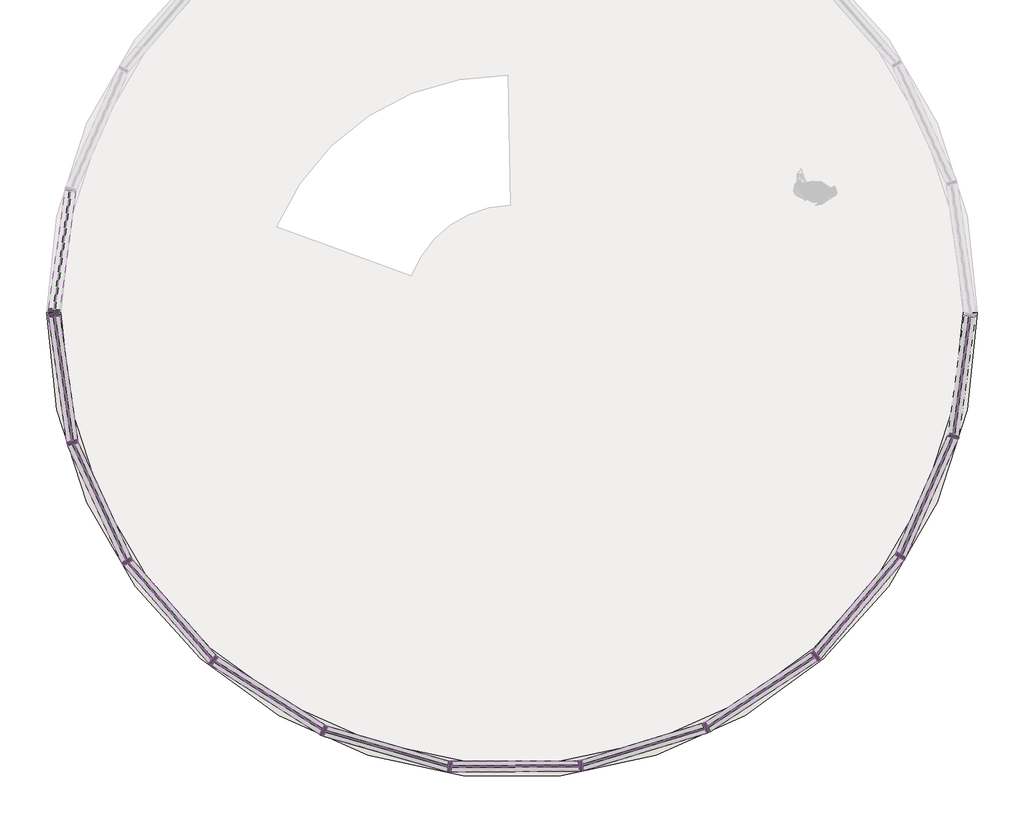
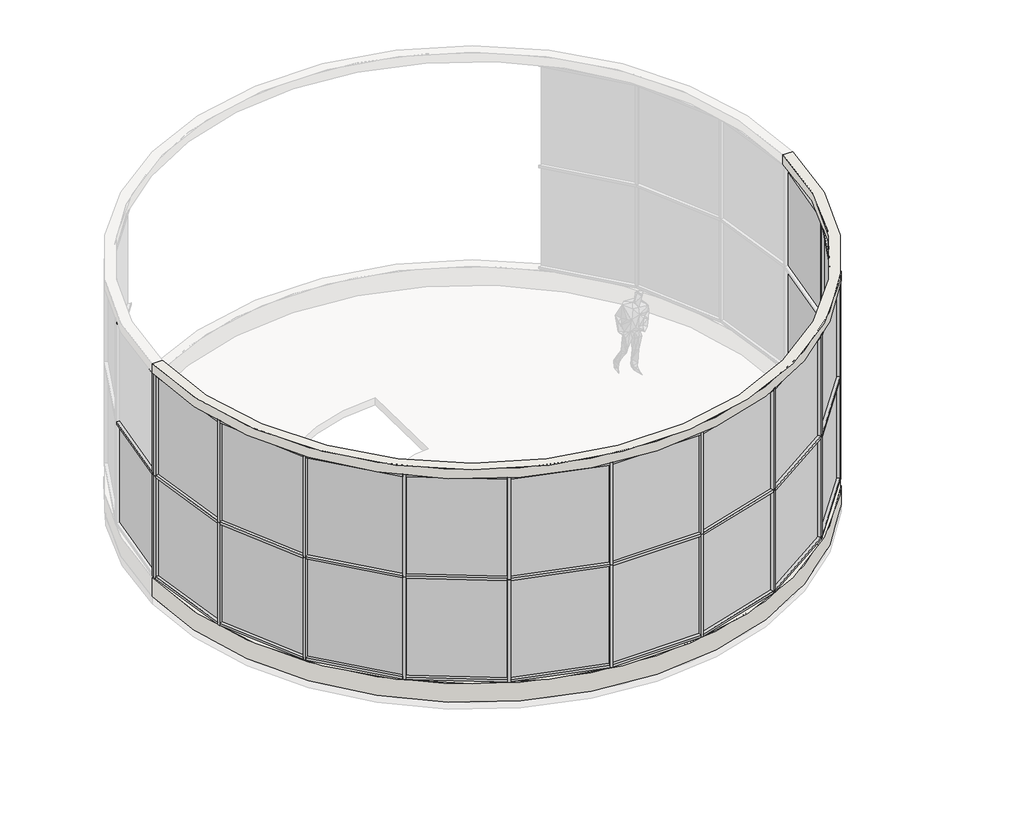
# One storey, part 1 of 2: 57 members, 23 plates, 1 wall.
"""IFC4 building model written with IfcOpenShell, lengths in millimetres."""

from ifc_helpers import new_model, si_unit, point, frame, frame_2d, origin, place, context, project, spatial, polyline, circle_curve, trimmed, segment, composite_curve, outline, extrude, transform, mapped, element, save
from components import member_50_x_150mm_b0936cf7, member_50_x_150mm_166bca5e, member_50_x_150mm_9cef7b28, member_50_x_150mm_6777a42d, member_50_x_150mm_9c1dd4a6, member_50_x_150mm_57523fa1, member_50_x_150mm_4a28a883, member_50_x_150mm_b9f85757, member_50_x_150mm_f67e5483, member_50_x_150mm_792551fd, plate_e43d0596, plate_04283251, plate_6d2e8075

model = new_model("IFC4")

# Units and contexts
model_context = context("Model", 3, world=origin())
ifc_project = project(units=[si_unit("LENGTHUNIT", "METRE", prefix="MILLI")], contexts=[model_context])

# Site, building, storey
site = spatial("IfcSite", under=ifc_project)
building = spatial("IfcBuilding", under=site)
storey = spatial("IfcBuildingStorey", under=building, Name="标高 3", Elevation=12000.0)

# Members
placement = place(None, origin())
member_50_x_150mm_shape = member_50_x_150mm_b0936cf7(model_context)
element("IfcMember", 1, ObjectType="矩形竖梃 : 50 x 150mm", at=placement, inside=storey, context=model_context, shape_type="MappedRepresentation", body=[
    mapped(member_50_x_150mm_shape, transform((-6757.0815424, 546.7729479, 16800.0), x_axis=(0.0, 0.0, 1.0), y_axis=(-0.9907400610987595, 0.1357723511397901, 0.0), z_axis=(-0.1357723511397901, -0.9907400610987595, 0.0))),
])
member_50_x_150mm_2_shape = member_50_x_150mm_166bca5e(model_context)
element("IfcMember", 2, ObjectType="矩形竖梃 : 50 x 150mm", at=placement, inside=storey, context=model_context, shape_type="MappedRepresentation", body=[
    mapped(member_50_x_150mm_2_shape, transform((-6756.7217224, 447.7495847, 12400.0), x_axis=(0.0, 0.0, -1.0), y_axis=(-0.9897272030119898, -0.1429687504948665, 0.0), z_axis=(-0.14296875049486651, 0.98972720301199, 0.0))),
])
member_50_x_150mm_3_shape = member_50_x_150mm_9cef7b28(model_context)
element("IfcMember", 3, ObjectType="矩形竖梃 : 50 x 150mm", at=placement, inside=storey, context=model_context, shape_type="MappedRepresentation", body=[
    mapped(member_50_x_150mm_3_shape, transform((-6502.2373456, -1313.9648429, 12400.0), x_axis=(0.28300012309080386, -0.959119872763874, 0.0), y_axis=(-0.959119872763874, -0.28300012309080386, 0.0), z_axis=(0.0, 0.0, -1.0))),
])
element("IfcMember", 4, ObjectType="矩形竖梃 : 50 x 150mm", at=placement, inside=storey, context=model_context, shape_type="MappedRepresentation", body=[
    mapped(member_50_x_150mm_3_shape, transform((-5738.7300717, -2977.081388, 12400.0), x_axis=(0.5428620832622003, -0.8398218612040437, 0.0), y_axis=(-0.8398218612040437, -0.5428620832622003, 0.0), z_axis=(0.0, 0.0, -1.0))),
])
element("IfcMember", 5, ObjectType="矩形竖梃 : 50 x 150mm", at=placement, inside=storey, context=model_context, shape_type="MappedRepresentation", body=[
    mapped(member_50_x_150mm_3_shape, transform((-4535.7728866, -4356.1368658, 12400.0), x_axis=(0.7583395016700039, -0.651859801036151, 0.0), y_axis=(-0.651859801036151, -0.7583395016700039, 0.0), z_axis=(0.0, 0.0, -1.0))),
])
element("IfcMember", 6, ObjectType="矩形竖梃 : 50 x 150mm", at=placement, inside=storey, context=model_context, shape_type="MappedRepresentation", body=[
    mapped(member_50_x_150mm_3_shape, transform((-2991.7198753, -5338.3793503, 12400.0), x_axis=(0.9118148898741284, -0.41060151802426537, 0.0), y_axis=(-0.41060151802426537, -0.9118148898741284, 0.0), z_axis=(0.0, 0.0, -1.0))),
])
element("IfcMember", 7, ObjectType="矩形竖梃 : 50 x 150mm", at=placement, inside=storey, context=model_context, shape_type="MappedRepresentation", body=[
    mapped(member_50_x_150mm_3_shape, transform((-1232.8132041, -5843.5004466, 12400.0), x_axis=(0.990740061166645, -0.13577235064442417, 0.0), y_axis=(-0.13577235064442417, -0.990740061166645, 0.0), z_axis=(0.0, 0.0, -1.0))),
])
element("IfcMember", 8, ObjectType="矩形竖梃 : 50 x 150mm", at=placement, inside=storey, context=model_context, shape_type="MappedRepresentation", body=[
    mapped(member_50_x_150mm_3_shape, transform((597.1384711, -5830.2013256, 12400.0), x_axis=(0.9886620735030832, 0.15015759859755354, 0.0), y_axis=(0.15015759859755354, -0.9886620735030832, 0.0), z_axis=(0.0, 0.0, -1.0))),
])
element("IfcMember", 9, ObjectType="矩形竖梃 : 50 x 150mm", at=placement, inside=storey, context=model_context, shape_type="MappedRepresentation", body=[
    mapped(member_50_x_150mm_3_shape, transform((2348.5178365, -5299.5693267, 12400.0), x_axis=(0.90575082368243, 0.4238106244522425, 0.0), y_axis=(0.4238106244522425, -0.90575082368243, 0.0), z_axis=(0.0, 0.0, -1.0))),
])
element("IfcMember", 10, ObjectType="矩形竖梃 : 50 x 150mm", at=placement, inside=storey, context=model_context, shape_type="MappedRepresentation", body=[
    mapped(member_50_x_150mm_3_shape, transform((3878.1316707, -4294.989057, 12400.0), x_axis=(0.7487851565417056, 0.6628127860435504, 0.0), y_axis=(0.6628127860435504, -0.7487851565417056, 0.0), z_axis=(0.0, 0.0, -1.0))),
])
element("IfcMember", 11, ObjectType="矩形竖梃 : 50 x 150mm", at=placement, inside=storey, context=model_context, shape_type="MappedRepresentation", body=[
    mapped(member_50_x_150mm_3_shape, transform((5060.9183582, -2898.5952544, 12400.0), x_axis=(0.5305986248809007, 0.8476232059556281, 0.0), y_axis=(0.8476232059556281, -0.5305986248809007, 0.0), z_axis=(0.0, 0.0, -1.0))),
])
element("IfcMember", 12, ObjectType="矩形竖梃 : 50 x 150mm", at=placement, inside=storey, context=model_context, shape_type="MappedRepresentation", body=[
    mapped(member_50_x_150mm_3_shape, transform((5800.172959, -1224.5574307, 12400.0), x_axis=(0.26903021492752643, 0.9631317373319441, 0.0), y_axis=(0.9631317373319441, -0.26903021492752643, 0.0), z_axis=(0.0, 0.0, -1.0))),
])
member_50_x_150mm_4_shape = member_50_x_150mm_6777a42d(model_context)
element("IfcMember", 13, ObjectType="矩形竖梃 : 50 x 150mm", at=placement, inside=storey, context=model_context, shape_type="MappedRepresentation", body=[
    mapped(member_50_x_150mm_4_shape, transform((-6505.8115644, -1289.2216628, 14600.0), x_axis=(0.0, 0.0, 1.0), y_axis=(-0.98972720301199, -0.1429687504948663, 0.0), z_axis=(0.1429687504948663, -0.98972720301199, 0.0))),
])
member_50_x_150mm_5_shape = member_50_x_150mm_9c1dd4a6(model_context)
element("IfcMember", 14, ObjectType="矩形竖梃 : 50 x 150mm", at=placement, inside=storey, context=model_context, shape_type="MappedRepresentation", body=[
    mapped(member_50_x_150mm_5_shape, transform((-5749.1604989, -2954.3612166, 14600.0), x_axis=(0.0, 0.0, 1.0), y_axis=(-0.9088068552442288, -0.4172170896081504, 0.0), z_axis=(0.4172170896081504, -0.9088068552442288, 0.0))),
])
element("IfcMember", 15, ObjectType="矩形竖梃 : 50 x 150mm", at=placement, inside=storey, context=model_context, shape_type="MappedRepresentation", body=[
    mapped(member_50_x_150mm_5_shape, transform((-4552.2067279, -4337.2973101, 14600.0), x_axis=(0.0, 0.0, 1.0), y_axis=(-0.7535822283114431, -0.6573536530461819, 0.0), z_axis=(0.6573536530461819, -0.7535822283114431, 0.0))),
])
element("IfcMember", 16, ObjectType="矩形竖梃 : 50 x 150mm", at=placement, inside=storey, context=model_context, shape_type="MappedRepresentation", body=[
    mapped(member_50_x_150mm_5_shape, transform((-3012.8134957, -5324.9607372, 14600.0), x_axis=(0.0, 0.0, 1.0), y_axis=(-0.5367445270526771, -0.8437448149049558, 0.0), z_axis=(0.8437448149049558, -0.5367445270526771, 0.0))),
])
element("IfcMember", 17, ObjectType="矩形竖梃 : 50 x 150mm", at=placement, inside=storey, context=model_context, shape_type="MappedRepresentation", body=[
    mapped(member_50_x_150mm_5_shape, transform((-1256.8419837, -5836.5998852, 14600.0), x_axis=(0.0, 0.0, 1.0), y_axis=(-0.2760224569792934, -0.9611511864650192, 0.0), z_axis=(0.9611511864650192, -0.2760224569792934, 0.0))),
])
element("IfcMember", 18, ObjectType="矩形竖梃 : 50 x 150mm", at=placement, inside=storey, context=model_context, shape_type="MappedRepresentation", body=[
    mapped(member_50_x_150mm_5_shape, transform((572.1391313, -5830.3830075, 14600.0), x_axis=(0.0, 0.0, 1.0), y_axis=(0.007267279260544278, -0.9999735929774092, 0.0), z_axis=(0.9999735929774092, 0.007267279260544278, 0.0))),
])
element("IfcMember", 19, ObjectType="矩形竖梃 : 50 x 150mm", at=placement, inside=storey, context=model_context, shape_type="MappedRepresentation", body=[
    mapped(member_50_x_150mm_5_shape, transform((2324.5918889, -5306.8183977, 14600.0), x_axis=(0.0, 0.0, 1.0), y_axis=(0.28996284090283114, -0.9570379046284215, 0.0), z_axis=(0.9570379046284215, 0.28996284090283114, 0.0))),
])
element("IfcMember", 20, ObjectType="矩形竖梃 : 50 x 150mm", at=placement, inside=storey, context=model_context, shape_type="MappedRepresentation", body=[
    mapped(member_50_x_150mm_5_shape, transform((3857.2353069, -4308.7128312, 14600.0), x_axis=(0.0, 0.0, 1.0), y_axis=(0.5489509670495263, -0.8358545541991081, 0.0), z_axis=(0.8358545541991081, 0.5489509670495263, 0.0))),
])
element("IfcMember", 21, ObjectType="矩形竖梃 : 50 x 150mm", at=placement, inside=storey, context=model_context, shape_type="MappedRepresentation", body=[
    mapped(member_50_x_150mm_5_shape, transform((5044.7600701, -2917.6716724, 14600.0), x_axis=(0.0, 0.0, 1.0), y_axis=(0.7630567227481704, -0.6463315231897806, 0.0), z_axis=(0.6463315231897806, 0.7630567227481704, 0.0))),
])
element("IfcMember", 22, ObjectType="矩形竖梃 : 50 x 150mm", at=placement, inside=storey, context=model_context, shape_type="MappedRepresentation", body=[
    mapped(member_50_x_150mm_5_shape, transform((5790.0738524, -1247.4267998, 14600.0), x_axis=(0.0, 0.0, 1.0), y_axis=(0.9147747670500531, -0.40396426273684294, 0.0), z_axis=(0.40396426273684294, 0.9147747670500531, 0.0))),
])
member_50_x_150mm_6_shape = member_50_x_150mm_57523fa1(model_context)
element("IfcMember", 23, ObjectType="矩形竖梃 : 50 x 150mm", at=placement, inside=storey, context=model_context, shape_type="MappedRepresentation", body=[
    mapped(member_50_x_150mm_6_shape, transform((-6757.0815424, 546.7729479, 14600.0), x_axis=(0.0, 0.0, 1.0), y_axis=(-0.9907400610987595, 0.13577235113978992, 0.0), z_axis=(-0.13577235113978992, -0.9907400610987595, 0.0))),
])
member_50_x_150mm_7_shape = member_50_x_150mm_4a28a883(model_context)
element("IfcMember", 24, ObjectType="矩形竖梃 : 50 x 150mm", at=placement, inside=storey, context=model_context, shape_type="MappedRepresentation", body=[
    mapped(member_50_x_150mm_7_shape, transform((-6491.8069184, -1336.6850143, 12400.0), x_axis=(0.0, 0.0, -1.0), y_axis=(-0.9088068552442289, -0.4172170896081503, 0.0), z_axis=(-0.4172170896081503, 0.9088068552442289, 0.0))),
])
element("IfcMember", 25, ObjectType="矩形竖梃 : 50 x 150mm", at=placement, inside=storey, context=model_context, shape_type="MappedRepresentation", body=[
    mapped(member_50_x_150mm_7_shape, transform((-5722.2962303, -2995.9209437, 12400.0), x_axis=(0.0, 0.0, -1.0), y_axis=(-0.7535822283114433, -0.6573536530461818, 0.0), z_axis=(-0.6573536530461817, 0.7535822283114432, 0.0))),
])
element("IfcMember", 26, ObjectType="矩形竖梃 : 50 x 150mm", at=placement, inside=storey, context=model_context, shape_type="MappedRepresentation", body=[
    mapped(member_50_x_150mm_7_shape, transform((-4514.6792662, -4369.555479, 12400.0), x_axis=(0.0, 0.0, -1.0), y_axis=(-0.5367445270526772, -0.8437448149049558, 0.0), z_axis=(-0.8437448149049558, 0.5367445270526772, 0.0))),
])
element("IfcMember", 27, ObjectType="矩形竖梃 : 50 x 150mm", at=placement, inside=storey, context=model_context, shape_type="MappedRepresentation", body=[
    mapped(member_50_x_150mm_7_shape, transform((-2967.6910956, -5345.2799118, 12400.0), x_axis=(0.0, 0.0, -1.0), y_axis=(-0.2760224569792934, -0.9611511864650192, 0.0), z_axis=(-0.9611511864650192, 0.2760224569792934, 0.0))),
])
element("IfcMember", 28, ObjectType="矩形竖梃 : 50 x 150mm", at=placement, inside=storey, context=model_context, shape_type="MappedRepresentation", body=[
    mapped(member_50_x_150mm_7_shape, transform((-1207.8138642, -5843.3187646, 12400.0), x_axis=(0.0, 0.0, -1.0), y_axis=(0.007267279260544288, -0.9999735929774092, 0.0), z_axis=(-0.9999735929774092, -0.007267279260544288, 0.0))),
])
element("IfcMember", 29, ObjectType="矩形竖梃 : 50 x 150mm", at=placement, inside=storey, context=model_context, shape_type="MappedRepresentation", body=[
    mapped(member_50_x_150mm_7_shape, transform((621.0644187, -5822.9522545, 12400.0), x_axis=(0.0, 0.0, -1.0), y_axis=(0.2899628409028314, -0.9570379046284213, 0.0), z_axis=(-0.9570379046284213, -0.2899628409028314, 0.0))),
])
element("IfcMember", 30, ObjectType="矩形竖梃 : 50 x 150mm", at=placement, inside=storey, context=model_context, shape_type="MappedRepresentation", body=[
    mapped(member_50_x_150mm_7_shape, transform((2369.4142004, -5285.8455525, 12400.0), x_axis=(0.0, 0.0, -1.0), y_axis=(0.5489509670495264, -0.8358545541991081, 0.0), z_axis=(-0.8358545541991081, -0.5489509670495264, 0.0))),
])
element("IfcMember", 31, ObjectType="矩形竖梃 : 50 x 150mm", at=placement, inside=storey, context=model_context, shape_type="MappedRepresentation", body=[
    mapped(member_50_x_150mm_7_shape, transform((3894.2899588, -4275.9126389, 12400.0), x_axis=(0.0, 0.0, -1.0), y_axis=(0.7630567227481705, -0.6463315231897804, 0.0), z_axis=(-0.6463315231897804, -0.7630567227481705, 0.0))),
])
element("IfcMember", 32, ObjectType="矩形竖梃 : 50 x 150mm", at=placement, inside=storey, context=model_context, shape_type="MappedRepresentation", body=[
    mapped(member_50_x_150mm_7_shape, transform((5071.0174647, -2875.7258852, 12400.0), x_axis=(0.0, 0.0, -1.0), y_axis=(0.9147747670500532, -0.4039642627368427, 0.0), z_axis=(-0.4039642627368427, -0.9147747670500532, 0.0))),
])
member_50_x_150mm_8_shape = member_50_x_150mm_b9f85757(model_context)
element("IfcMember", 33, ObjectType="矩形竖梃 : 50 x 150mm", at=placement, inside=storey, context=model_context, shape_type="MappedRepresentation", body=[
    mapped(member_50_x_150mm_8_shape, transform((5803.5672678, -1199.7889291, 12400.0), x_axis=(0.0, 0.0, -1.0), y_axis=(0.9907400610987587, -0.13577235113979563, 0.0), z_axis=(-0.1357723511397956, -0.9907400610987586, 0.0))),
])
member_50_x_150mm_9_shape = member_50_x_150mm_f67e5483(model_context)
element("IfcMember", 34, ObjectType="矩形竖梃 : 50 x 150mm", at=placement, inside=storey, context=model_context, shape_type="MappedRepresentation", body=[
    mapped(member_50_x_150mm_9_shape, transform((-6505.8115644, -1289.2216628, 16800.0), x_axis=(0.0, 0.0, 1.0), y_axis=(-0.98972720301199, -0.1429687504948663, 0.0), z_axis=(0.1429687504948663, -0.98972720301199, 0.0))),
])
element("IfcMember", 35, ObjectType="矩形竖梃 : 50 x 150mm", at=placement, inside=storey, context=model_context, shape_type="MappedRepresentation", body=[
    mapped(member_50_x_150mm_7_shape, transform((-5749.1604989, -2954.3612166, 16800.0), x_axis=(0.0, 0.0, 1.0), y_axis=(-0.9088068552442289, -0.4172170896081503, 0.0), z_axis=(0.4172170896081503, -0.9088068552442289, 0.0))),
])
element("IfcMember", 36, ObjectType="矩形竖梃 : 50 x 150mm", at=placement, inside=storey, context=model_context, shape_type="MappedRepresentation", body=[
    mapped(member_50_x_150mm_7_shape, transform((-4552.2067279, -4337.2973101, 16800.0), x_axis=(0.0, 0.0, 1.0), y_axis=(-0.7535822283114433, -0.6573536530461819, 0.0), z_axis=(0.6573536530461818, -0.7535822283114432, 0.0))),
])
element("IfcMember", 37, ObjectType="矩形竖梃 : 50 x 150mm", at=placement, inside=storey, context=model_context, shape_type="MappedRepresentation", body=[
    mapped(member_50_x_150mm_7_shape, transform((-3012.8134957, -5324.9607372, 16800.0), x_axis=(0.0, 0.0, 1.0), y_axis=(-0.5367445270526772, -0.8437448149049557, 0.0), z_axis=(0.8437448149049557, -0.5367445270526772, 0.0))),
])
element("IfcMember", 38, ObjectType="矩形竖梃 : 50 x 150mm", at=placement, inside=storey, context=model_context, shape_type="MappedRepresentation", body=[
    mapped(member_50_x_150mm_7_shape, transform((-1256.8419837, -5836.5998852, 16800.0), x_axis=(0.0, 0.0, 1.0), y_axis=(-0.2760224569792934, -0.9611511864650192, 0.0), z_axis=(0.9611511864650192, -0.2760224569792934, 0.0))),
])
element("IfcMember", 39, ObjectType="矩形竖梃 : 50 x 150mm", at=placement, inside=storey, context=model_context, shape_type="MappedRepresentation", body=[
    mapped(member_50_x_150mm_7_shape, transform((572.1391313, -5830.3830075, 16800.0), x_axis=(0.0, 0.0, 1.0), y_axis=(0.007267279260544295, -0.9999735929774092, 0.0), z_axis=(0.9999735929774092, 0.007267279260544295, 0.0))),
])
element("IfcMember", 40, ObjectType="矩形竖梃 : 50 x 150mm", at=placement, inside=storey, context=model_context, shape_type="MappedRepresentation", body=[
    mapped(member_50_x_150mm_7_shape, transform((2324.5918889, -5306.8183977, 16800.0), x_axis=(0.0, 0.0, 1.0), y_axis=(0.28996284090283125, -0.9570379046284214, 0.0), z_axis=(0.9570379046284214, 0.28996284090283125, 0.0))),
])
element("IfcMember", 41, ObjectType="矩形竖梃 : 50 x 150mm", at=placement, inside=storey, context=model_context, shape_type="MappedRepresentation", body=[
    mapped(member_50_x_150mm_7_shape, transform((3857.2353069, -4308.7128312, 16800.0), x_axis=(0.0, 0.0, 1.0), y_axis=(0.5489509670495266, -0.835854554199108, 0.0), z_axis=(0.8358545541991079, 0.5489509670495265, 0.0))),
])
element("IfcMember", 42, ObjectType="矩形竖梃 : 50 x 150mm", at=placement, inside=storey, context=model_context, shape_type="MappedRepresentation", body=[
    mapped(member_50_x_150mm_7_shape, transform((5044.7600701, -2917.6716724, 16800.0), x_axis=(0.0, 0.0, 1.0), y_axis=(0.7630567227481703, -0.6463315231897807, 0.0), z_axis=(0.6463315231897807, 0.7630567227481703, 0.0))),
])
element("IfcMember", 43, ObjectType="矩形竖梃 : 50 x 150mm", at=placement, inside=storey, context=model_context, shape_type="MappedRepresentation", body=[
    mapped(member_50_x_150mm_7_shape, transform((5790.0738524, -1247.4267998, 16800.0), x_axis=(0.0, 0.0, 1.0), y_axis=(0.9147747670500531, -0.40396426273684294, 0.0), z_axis=(0.40396426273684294, 0.9147747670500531, 0.0))),
])
element("IfcMember", 44, ObjectType="矩形竖梃 : 50 x 150mm", at=placement, inside=storey, context=model_context, shape_type="MappedRepresentation", body=[
    mapped(member_50_x_150mm_3_shape, transform((-6502.2373456, -1313.9648429, 14600.0), x_axis=(0.28300012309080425, -0.9591198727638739, 0.0), y_axis=(-0.9591198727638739, -0.28300012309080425, 0.0), z_axis=(0.0, 0.0, -1.0))),
])
element("IfcMember", 45, ObjectType="矩形竖梃 : 50 x 150mm", at=placement, inside=storey, context=model_context, shape_type="MappedRepresentation", body=[
    mapped(member_50_x_150mm_3_shape, transform((-5738.7300717, -2977.081388, 14600.0), x_axis=(0.5428620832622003, -0.8398218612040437, 0.0), y_axis=(-0.8398218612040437, -0.5428620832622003, 0.0), z_axis=(0.0, 0.0, -1.0))),
])
element("IfcMember", 46, ObjectType="矩形竖梃 : 50 x 150mm", at=placement, inside=storey, context=model_context, shape_type="MappedRepresentation", body=[
    mapped(member_50_x_150mm_3_shape, transform((-4535.7728866, -4356.1368658, 14600.0), x_axis=(0.7583395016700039, -0.651859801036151, 0.0), y_axis=(-0.651859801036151, -0.7583395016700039, 0.0), z_axis=(0.0, 0.0, -1.0))),
])
element("IfcMember", 47, ObjectType="矩形竖梃 : 50 x 150mm", at=placement, inside=storey, context=model_context, shape_type="MappedRepresentation", body=[
    mapped(member_50_x_150mm_3_shape, transform((-2991.7198753, -5338.3793503, 14600.0), x_axis=(0.9118148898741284, -0.41060151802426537, 0.0), y_axis=(-0.41060151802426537, -0.9118148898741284, 0.0), z_axis=(0.0, 0.0, -1.0))),
])
element("IfcMember", 48, ObjectType="矩形竖梃 : 50 x 150mm", at=placement, inside=storey, context=model_context, shape_type="MappedRepresentation", body=[
    mapped(member_50_x_150mm_3_shape, transform((-1232.8132041, -5843.5004466, 14600.0), x_axis=(0.990740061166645, -0.13577235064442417, 0.0), y_axis=(-0.13577235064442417, -0.990740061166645, 0.0), z_axis=(0.0, 0.0, -1.0))),
])
element("IfcMember", 49, ObjectType="矩形竖梃 : 50 x 150mm", at=placement, inside=storey, context=model_context, shape_type="MappedRepresentation", body=[
    mapped(member_50_x_150mm_3_shape, transform((597.1384711, -5830.2013256, 14600.0), x_axis=(0.9886620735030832, 0.15015759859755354, 0.0), y_axis=(0.15015759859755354, -0.9886620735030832, 0.0), z_axis=(0.0, 0.0, -1.0))),
])
element("IfcMember", 50, ObjectType="矩形竖梃 : 50 x 150mm", at=placement, inside=storey, context=model_context, shape_type="MappedRepresentation", body=[
    mapped(member_50_x_150mm_3_shape, transform((2348.5178365, -5299.5693267, 14600.0), x_axis=(0.90575082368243, 0.4238106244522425, 0.0), y_axis=(0.4238106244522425, -0.90575082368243, 0.0), z_axis=(0.0, 0.0, -1.0))),
])
element("IfcMember", 51, ObjectType="矩形竖梃 : 50 x 150mm", at=placement, inside=storey, context=model_context, shape_type="MappedRepresentation", body=[
    mapped(member_50_x_150mm_3_shape, transform((3878.1316707, -4294.989057, 14600.0), x_axis=(0.7487851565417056, 0.6628127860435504, 0.0), y_axis=(0.6628127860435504, -0.7487851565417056, 0.0), z_axis=(0.0, 0.0, -1.0))),
])
element("IfcMember", 52, ObjectType="矩形竖梃 : 50 x 150mm", at=placement, inside=storey, context=model_context, shape_type="MappedRepresentation", body=[
    mapped(member_50_x_150mm_3_shape, transform((5060.9183582, -2898.5952544, 14600.0), x_axis=(0.5305986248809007, 0.8476232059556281, 0.0), y_axis=(0.8476232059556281, -0.5305986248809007, 0.0), z_axis=(0.0, 0.0, -1.0))),
])
element("IfcMember", 53, ObjectType="矩形竖梃 : 50 x 150mm", at=placement, inside=storey, context=model_context, shape_type="MappedRepresentation", body=[
    mapped(member_50_x_150mm_3_shape, transform((5800.172959, -1224.5574307, 14600.0), x_axis=(0.26903021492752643, 0.9631317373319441, 0.0), y_axis=(0.9631317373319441, -0.26903021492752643, 0.0), z_axis=(0.0, 0.0, -1.0))),
])
member_50_x_150mm_10_shape = member_50_x_150mm_792551fd(model_context)
element("IfcMember", 54, ObjectType="矩形竖梃 : 50 x 150mm", at=placement, inside=storey, context=model_context, shape_type="MappedRepresentation", body=[
    mapped(member_50_x_150mm_10_shape, transform((-6763.8701599, 497.2359449, 12400.0), x_axis=(-0.13577235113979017, -0.9907400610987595, 0.0), y_axis=(-0.9907400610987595, 0.13577235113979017, 0.0), z_axis=(0.0, 0.0, -1.0))),
])
element("IfcMember", 55, ObjectType="矩形竖梃 : 50 x 150mm", at=placement, inside=storey, context=model_context, shape_type="MappedRepresentation", body=[
    mapped(member_50_x_150mm_10_shape, transform((-6763.8701599, 497.2359449, 16800.0), x_axis=(-0.14296875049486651, 0.9897272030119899, 0.0), y_axis=(-0.9897272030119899, -0.14296875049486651, 0.0), z_axis=(0.0, 0.0, 1.0))),
])
element("IfcMember", 56, ObjectType="矩形竖梃 : 50 x 150mm", at=placement, inside=storey, context=model_context, shape_type="MappedRepresentation", body=[
    mapped(member_50_x_150mm_10_shape, transform((-6763.8701599, 497.2359449, 14600.0), x_axis=(-0.14296875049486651, 0.9897272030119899, 0.0), y_axis=(-0.9897272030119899, -0.14296875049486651, 0.0), z_axis=(0.0, 0.0, 1.0))),
])
element("IfcMember", 57, ObjectType="矩形竖梃 : 50 x 150mm", at=placement, inside=storey, context=model_context, shape_type="MappedRepresentation", body=[
    mapped(member_50_x_150mm_10_shape, transform((-6763.8701599, 497.2359449, 14600.0), x_axis=(-0.13577235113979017, -0.9907400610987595, 0.0), y_axis=(-0.9907400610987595, 0.13577235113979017, 0.0), z_axis=(0.0, 0.0, -1.0))),
])

# Plates
plate_shape = plate_e43d0596(model_context)
element("IfcPlate", 58, ObjectType="系统嵌板 : 玻璃", at=placement, inside=storey, context=model_context, shape_type="MappedRepresentation", body=[
    mapped(plate_shape, transform((-6631.2666434, -420.7360391, 12450.0), x_axis=(0.14296875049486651, -0.9897272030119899, 0.0), y_axis=(0.9897272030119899, 0.14296875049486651, 0.0), z_axis=(0.0, 0.0, 1.0))),
])
element("IfcPlate", 59, ObjectType="系统嵌板 : 玻璃", at=placement, inside=storey, context=model_context, shape_type="MappedRepresentation", body=[
    mapped(plate_shape, transform((-6631.2666434, -420.7360391, 14625.0), x_axis=(0.14296875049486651, -0.9897272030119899, 0.0), y_axis=(0.9897272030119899, 0.14296875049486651, 0.0), z_axis=(0.0, 0.0, 1.0))),
])
plate_2_shape = plate_04283251(model_context)
element("IfcPlate", 60, ObjectType="系统嵌板 : 玻璃", at=placement, inside=storey, context=model_context, shape_type="MappedRepresentation", body=[
    mapped(plate_2_shape, transform((-6120.4837086, -2145.5231155, 12450.0), x_axis=(0.4172170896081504, -0.9088068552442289, 0.0), y_axis=(0.9088068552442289, 0.4172170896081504, 0.0), z_axis=(0.0, 0.0, 1.0))),
])
element("IfcPlate", 61, ObjectType="系统嵌板 : 玻璃", at=placement, inside=storey, context=model_context, shape_type="MappedRepresentation", body=[
    mapped(plate_2_shape, transform((-5137.2514791, -3666.6091269, 12450.0), x_axis=(0.6573536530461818, -0.7535822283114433, 0.0), y_axis=(0.7535822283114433, 0.6573536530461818, 0.0), z_axis=(0.0, 0.0, 1.0))),
])
element("IfcPlate", 62, ObjectType="系统嵌板 : 玻璃", at=placement, inside=storey, context=model_context, shape_type="MappedRepresentation", body=[
    mapped(plate_2_shape, transform((-3763.7463809, -4847.2581081, 12450.0), x_axis=(0.8437448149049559, -0.5367445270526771, 0.0), y_axis=(0.5367445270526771, 0.8437448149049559, 0.0), z_axis=(0.0, 0.0, 1.0))),
])
element("IfcPlate", 63, ObjectType="系统嵌板 : 玻璃", at=placement, inside=storey, context=model_context, shape_type="MappedRepresentation", body=[
    mapped(plate_2_shape, transform((-2112.2665397, -5590.9398985, 12450.0), x_axis=(0.9611511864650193, -0.2760224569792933, 0.0), y_axis=(0.2760224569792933, 0.9611511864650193, 0.0), z_axis=(0.0, 0.0, 1.0))),
])
element("IfcPlate", 64, ObjectType="系统嵌板 : 玻璃", at=placement, inside=storey, context=model_context, shape_type="MappedRepresentation", body=[
    mapped(plate_2_shape, transform((-317.8373665, -5836.8508861, 12450.0), x_axis=(0.9999735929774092, 0.007267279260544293, 0.0), y_axis=(-0.007267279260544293, 0.9999735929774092, 0.0), z_axis=(0.0, 0.0, 1.0))),
])
element("IfcPlate", 65, ObjectType="系统嵌板 : 玻璃", at=placement, inside=storey, context=model_context, shape_type="MappedRepresentation", body=[
    mapped(plate_2_shape, transform((1472.8281538, -5564.8853261, 12450.0), x_axis=(0.9570379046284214, 0.28996284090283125, 0.0), y_axis=(-0.28996284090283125, 0.9570379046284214, 0.0), z_axis=(0.0, 0.0, 1.0))),
])
element("IfcPlate", 66, ObjectType="系统嵌板 : 玻璃", at=placement, inside=storey, context=model_context, shape_type="MappedRepresentation", body=[
    mapped(plate_2_shape, transform((3113.3247536, -4797.2791919, 12450.0), x_axis=(0.8358545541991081, 0.5489509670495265, 0.0), y_axis=(-0.5489509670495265, 0.8358545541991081, 0.0), z_axis=(0.0, 0.0, 1.0))),
])
element("IfcPlate", 67, ObjectType="系统嵌板 : 玻璃", at=placement, inside=storey, context=model_context, shape_type="MappedRepresentation", body=[
    mapped(plate_2_shape, transform((4469.5250144, -3596.7921557, 12450.0), x_axis=(0.6463315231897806, 0.7630567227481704, 0.0), y_axis=(-0.7630567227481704, 0.6463315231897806, 0.0), z_axis=(0.0, 0.0, 1.0))),
])
element("IfcPlate", 68, ObjectType="系统嵌板 : 玻璃", at=placement, inside=storey, context=model_context, shape_type="MappedRepresentation", body=[
    mapped(plate_2_shape, transform((5430.5456586, -2061.5763425, 12450.0), x_axis=(0.40396426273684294, 0.9147747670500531, 0.0), y_axis=(-0.9147747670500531, 0.40396426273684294, 0.0), z_axis=(0.0, 0.0, 1.0))),
])
element("IfcPlate", 69, ObjectType="系统嵌板 : 玻璃", at=placement, inside=storey, context=model_context, shape_type="MappedRepresentation", body=[
    mapped(plate_2_shape, transform((-6120.4837086, -2145.5231155, 14625.0), x_axis=(0.4172170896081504, -0.9088068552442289, 0.0), y_axis=(0.9088068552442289, 0.4172170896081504, 0.0), z_axis=(0.0, 0.0, 1.0))),
])
element("IfcPlate", 70, ObjectType="系统嵌板 : 玻璃", at=placement, inside=storey, context=model_context, shape_type="MappedRepresentation", body=[
    mapped(plate_2_shape, transform((-5137.2514791, -3666.6091269, 14625.0), x_axis=(0.6573536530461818, -0.7535822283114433, 0.0), y_axis=(0.7535822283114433, 0.6573536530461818, 0.0), z_axis=(0.0, 0.0, 1.0))),
])
element("IfcPlate", 71, ObjectType="系统嵌板 : 玻璃", at=placement, inside=storey, context=model_context, shape_type="MappedRepresentation", body=[
    mapped(plate_2_shape, transform((-3763.7463809, -4847.2581081, 14625.0), x_axis=(0.8437448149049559, -0.5367445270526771, 0.0), y_axis=(0.5367445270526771, 0.8437448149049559, 0.0), z_axis=(0.0, 0.0, 1.0))),
])
element("IfcPlate", 72, ObjectType="系统嵌板 : 玻璃", at=placement, inside=storey, context=model_context, shape_type="MappedRepresentation", body=[
    mapped(plate_2_shape, transform((-2112.2665397, -5590.9398985, 14625.0), x_axis=(0.9611511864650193, -0.2760224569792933, 0.0), y_axis=(0.2760224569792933, 0.9611511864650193, 0.0), z_axis=(0.0, 0.0, 1.0))),
])
element("IfcPlate", 73, ObjectType="系统嵌板 : 玻璃", at=placement, inside=storey, context=model_context, shape_type="MappedRepresentation", body=[
    mapped(plate_2_shape, transform((-317.8373665, -5836.8508861, 14625.0), x_axis=(0.9999735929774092, 0.007267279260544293, 0.0), y_axis=(-0.007267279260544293, 0.9999735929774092, 0.0), z_axis=(0.0, 0.0, 1.0))),
])
element("IfcPlate", 74, ObjectType="系统嵌板 : 玻璃", at=placement, inside=storey, context=model_context, shape_type="MappedRepresentation", body=[
    mapped(plate_2_shape, transform((1472.8281538, -5564.8853261, 14625.0), x_axis=(0.9570379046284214, 0.28996284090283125, 0.0), y_axis=(-0.28996284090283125, 0.9570379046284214, 0.0), z_axis=(0.0, 0.0, 1.0))),
])
element("IfcPlate", 75, ObjectType="系统嵌板 : 玻璃", at=placement, inside=storey, context=model_context, shape_type="MappedRepresentation", body=[
    mapped(plate_2_shape, transform((3113.3247536, -4797.2791919, 14625.0), x_axis=(0.8358545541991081, 0.5489509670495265, 0.0), y_axis=(-0.5489509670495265, 0.8358545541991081, 0.0), z_axis=(0.0, 0.0, 1.0))),
])
element("IfcPlate", 76, ObjectType="系统嵌板 : 玻璃", at=placement, inside=storey, context=model_context, shape_type="MappedRepresentation", body=[
    mapped(plate_2_shape, transform((4469.5250144, -3596.7921557, 14625.0), x_axis=(0.6463315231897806, 0.7630567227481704, 0.0), y_axis=(-0.7630567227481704, 0.6463315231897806, 0.0), z_axis=(0.0, 0.0, 1.0))),
])
element("IfcPlate", 77, ObjectType="系统嵌板 : 玻璃", at=placement, inside=storey, context=model_context, shape_type="MappedRepresentation", body=[
    mapped(plate_2_shape, transform((5430.5456586, -2061.5763425, 14625.0), x_axis=(0.40396426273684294, 0.9147747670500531, 0.0), y_axis=(-0.9147747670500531, 0.40396426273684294, 0.0), z_axis=(0.0, 0.0, 1.0))),
])
plate_3_shape = plate_6d2e8075(model_context)
element("IfcPlate", 78, ObjectType="系统嵌板 : 玻璃", at=placement, inside=storey, context=model_context, shape_type="MappedRepresentation", body=[
    mapped(plate_3_shape, transform((-6644.194565, 1370.5168834, 12450.0), x_axis=(-0.13577235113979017, -0.9907400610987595, 0.0), y_axis=(0.9907400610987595, -0.13577235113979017, 0.0), z_axis=(0.0, 0.0, 1.0))),
])
element("IfcPlate", 79, ObjectType="系统嵌板 : 玻璃", at=placement, inside=storey, context=model_context, shape_type="MappedRepresentation", body=[
    mapped(plate_3_shape, transform((5916.4542451, -376.0449937, 12450.0), x_axis=(0.1357723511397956, 0.9907400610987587, 0.0), y_axis=(-0.9907400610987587, 0.1357723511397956, 0.0), z_axis=(0.0, 0.0, 1.0))),
])
element("IfcPlate", 80, ObjectType="系统嵌板 : 玻璃", at=placement, inside=storey, context=model_context, shape_type="MappedRepresentation", body=[
    mapped(plate_3_shape, transform((5916.4542451, -376.0449937, 14625.0), x_axis=(0.1357723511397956, 0.9907400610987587, 0.0), y_axis=(-0.9907400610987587, 0.1357723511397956, 0.0), z_axis=(0.0, 0.0, 1.0))),
])

# Wall
element("IfcWall", 81, ObjectType="外墙", at=placement, inside=storey, context=model_context, shape_type="SweptSolid", body=[
    extrude(outline(composite_curve([segment(trimmed(circle_curve(frame_2d((-363.8701599, 497.2359449)), 6300.0), [point((-6663.8701599, 497.2359449))], [point((5936.1298401, 497.2359449))], True, "CARTESIAN"), True, "CONTINUOUS"), segment(polyline([(5936.1298401, 497.2359449), (6136.1298401, 497.2359449)]), True, "CONTINUOUS"), segment(trimmed(circle_curve(frame_2d((-363.8701599, 497.2359449)), 6500.0), [point((6136.1298401, 497.2359449))], [point((-6863.8701599, 497.2359449))], False, "CARTESIAN"), True, "CONTINUOUS"), segment(polyline([(-6863.8701599, 497.2359449), (-6663.8701599, 497.2359449)]), True, "CONTINUOUS")], self_intersect=False)), frame((0.0, 0.0, 16800.0), z_axis=(0.0, 0.0, 1.0), x_axis=(1.0, 0.0, 0.0)), (0.0, 0.0, 1.0), 200.0),
    extrude(outline(composite_curve([segment(trimmed(circle_curve(frame_2d((-363.8701599, 497.2359449)), 6300.0), [point((-6663.8701599, 497.2359449))], [point((5936.1298401, 497.2359449))], True, "CARTESIAN"), True, "CONTINUOUS"), segment(polyline([(5936.1298401, 497.2359449), (6136.1298401, 497.2359449)]), True, "CONTINUOUS"), segment(trimmed(circle_curve(frame_2d((-363.8701599, 497.2359449)), 6500.0), [point((6136.1298401, 497.2359449))], [point((-6863.8701599, 497.2359449))], False, "CARTESIAN"), True, "CONTINUOUS"), segment(polyline([(-6863.8701599, 497.2359449), (-6663.8701599, 497.2359449)]), True, "CONTINUOUS")], self_intersect=False)), frame((0.0, 0.0, 12000.0), z_axis=(0.0, 0.0, 1.0), x_axis=(1.0, 0.0, 0.0)), (0.0, 0.0, 1.0), 400.0),
])

save(model, "model.ifc")
